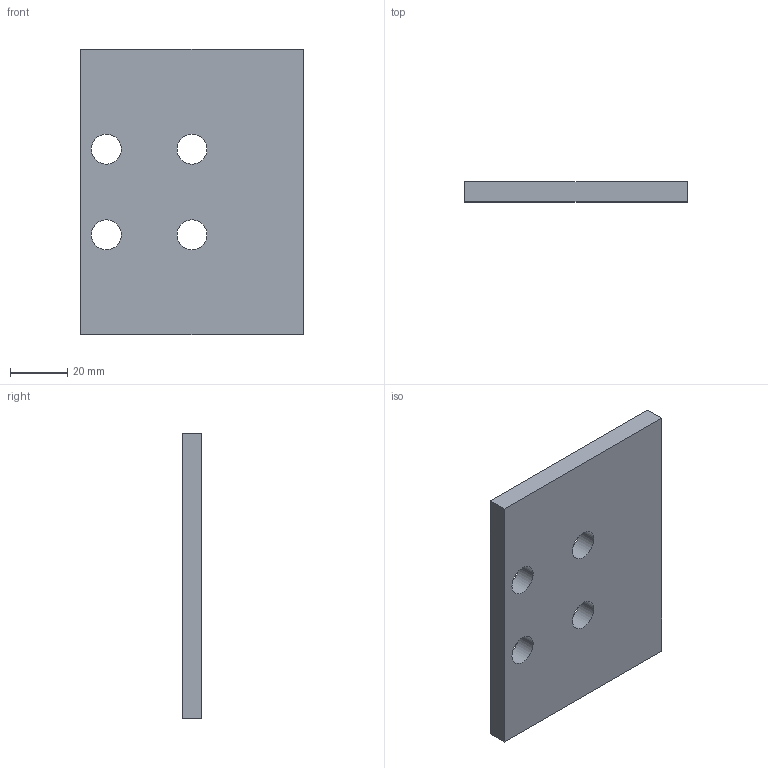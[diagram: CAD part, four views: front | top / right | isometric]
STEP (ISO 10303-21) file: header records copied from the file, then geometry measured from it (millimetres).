
FILE_DESCRIPTION( ( '' ), '1' );
FILE_NAME( 'E:/04 嬴檜蠱滌/0404 ZIMMER/040414 ZIMMER CAD download/Adapt plate/PLK for LKP, LKPS/PLK55-7.stp', '2020-04-16T10:20:06', ( '' ), ( '' ), ' ', ' ', ' ' );
FILE_SCHEMA( ( 'automotive_design' ) );
Length unit declared in the file: millimetre
Products named in the file (1): 1
Bounding box: 78 x 7 x 100 mm (x, y, z)
Volume: 52175.5 mm3; surface area: 18322.9 mm2
Topology: 1 solids, 1 shells, 14 faces, 36 edges, 24 vertices
Faces by surface type: cylinder 8, plane 6
Entity records: 888 total; most frequent: DIRECTION 82, STYLED_ITEM 75, PRESENTATION_STYLE_ASSIGNMENT 75, CARTESIAN_POINT 75, COLOUR_RGB 75, ORIENTED_EDGE 72, EDGE_CURVE 36, CURVE_STYLE 36
